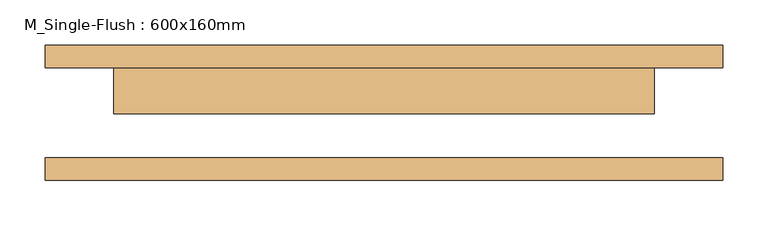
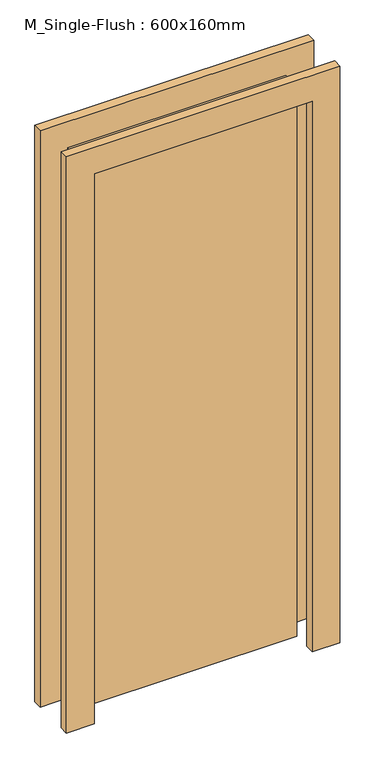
"""IFC4 building model written with IfcOpenShell, lengths in millimetres: door geometry, M_Single-Flush : 600x160mm."""

import ifcopenshell
import ifcopenshell.guid

model = None  # the IFC model being written
_history = None  # IfcOwnerHistory: only IFC2X3 demands one
_inside = {}  # id of a spatial element -> (the spatial element, [elements in it])
_under = {}  # id of a project, library or spatial element -> (it, [spatial elements below it])
_declared = {}  # id of a project -> (the project, [libraries it declares])
_typed = {}  # id of a type object -> (the type object, [elements of that type])
_made_of = {}  # id of a material, layer set ... -> (it, [elements and type objects made of it])


def new_model(schema):
    """Start an empty IFC model of exactly this schema.

    Asked for "IFC4X3", IfcOpenShell would pick the latest addendum, in which some entities
    have other attributes; the version numbers below select the first issue.
    IFC2X3 requires an IfcOwnerHistory on every rooted entity: one is made here for all.
    """
    global model, _history
    if schema == "IFC4X3":
        model = ifcopenshell.file(schema_version=(4, 3, 0, 0))
    else:
        model = ifcopenshell.file(schema=schema)
    _inside.clear()
    _under.clear()
    _declared.clear()
    _typed.clear()
    _made_of.clear()
    _history = None
    if model.schema == "IFC2X3":
        org = make("IfcOrganization", Name="unknown")
        user = make(
            "IfcPersonAndOrganization",
            ThePerson=make("IfcPerson", FamilyName="unknown"),
            TheOrganization=org,
        )
        app = make(
            "IfcApplication",
            ApplicationDeveloper=org,
            Version="unknown",
            ApplicationFullName="unknown",
            ApplicationIdentifier="unknown",
        )
        _history = make(
            "IfcOwnerHistory",
            OwningUser=user,
            OwningApplication=app,
            ChangeAction="ADDED",
            CreationDate=0,
        )
    return model


def make(cls, **values):
    """One entity of the class cls with the attributes given. An attribute that is None is left unset."""
    return model.create_entity(
        cls, **{name: value for name, value in values.items() if value is not None}
    )


def rooted(cls, **values):
    """An entity with a GlobalId (a new one), such as an element, a storey or a relation."""
    return make(cls, GlobalId=ifcopenshell.guid.new(), OwnerHistory=_history, **values)


def si_unit(unit_type, name, prefix=None):
    """IfcSIUnit, for example si_unit("LENGTHUNIT", "METRE", prefix="MILLI")."""
    return make("IfcSIUnit", UnitType=unit_type, Prefix=prefix, Name=name)


def assignment(units):
    """IfcUnitAssignment: the units of a project."""
    return None if units is None else make("IfcUnitAssignment", Units=units)


def point(xyz):
    """IfcCartesianPoint."""
    return None if xyz is None else make("IfcCartesianPoint", Coordinates=xyz)


def direction(xyz):
    """IfcDirection."""
    return None if xyz is None else make("IfcDirection", DirectionRatios=xyz)


def frame(location, z_axis=None, x_axis=None):
    """IfcAxis2Placement3D, a coordinate frame: its origin and axes. An axis left out is left unset."""
    return make(
        "IfcAxis2Placement3D",
        Location=point(location),
        Axis=direction(z_axis),
        RefDirection=direction(x_axis),
    )


def origin():
    """The frame at (0, 0, 0) with its axes left unset."""
    return frame((0.0, 0.0, 0.0))


def origin_with_axes():
    """The frame at (0, 0, 0) with the z axis (0, 0, 1) and the x axis (1, 0, 0) written out."""
    return frame((0.0, 0.0, 0.0), z_axis=(0.0, 0.0, 1.0), x_axis=(1.0, 0.0, 0.0))


def place(relative_to, where):
    """IfcLocalPlacement: puts the frame where relative to a parent placement (None: the world)."""
    return make(
        "IfcLocalPlacement", PlacementRelTo=relative_to, RelativePlacement=where
    )


def context(
    kind, dimensions, precision=None, world=None, true_north=None, identifier=None
):
    """IfcGeometricRepresentationContext, for example the 3D "Model" context."""
    return make(
        "IfcGeometricRepresentationContext",
        ContextIdentifier=identifier,
        ContextType=kind,
        CoordinateSpaceDimension=dimensions,
        Precision=precision,
        WorldCoordinateSystem=world,
        TrueNorth=true_north,
    )


def project(units=None, contexts=None):
    """IfcProject with its units and contexts."""
    return rooted(
        "IfcProject",
        Name="project",
        RepresentationContexts=contexts,
        UnitsInContext=assignment(units),
    )


def spatial(cls, under=None, at=None, **own):
    """A site, building, storey or space (cls), placed at a placement, below another one or the project."""
    s = rooted(cls, ObjectPlacement=at, **own)
    if under is not None:
        _under.setdefault(under.id(), (under, []))[1].append(s)
    return s


def polyline(points):
    """IfcPolyline through the points."""
    return make("IfcPolyline", Points=[point(p) for p in points])


def outline(outer, holes=None, kind="AREA"):
    """IfcArbitraryClosedProfileDef: a profile drawn as a closed curve; with holes, ...WithVoids."""
    if holes is None:
        return make("IfcArbitraryClosedProfileDef", ProfileType=kind, OuterCurve=outer)
    return make(
        "IfcArbitraryProfileDefWithVoids",
        ProfileType=kind,
        OuterCurve=outer,
        InnerCurves=holes,
    )


def extrude(swept, where, along, depth):
    """IfcExtrudedAreaSolid: the profile swept, set in the frame where, extruded along a direction by depth."""
    return make(
        "IfcExtrudedAreaSolid",
        SweptArea=swept,
        Position=where,
        ExtrudedDirection=direction(along),
        Depth=depth,
    )


def shape(context_of_items, identifier, shape_type, items):
    """IfcShapeRepresentation: the items that make up one representation, for example the "Body"."""
    return make(
        "IfcShapeRepresentation",
        ContextOfItems=context_of_items,
        RepresentationIdentifier=identifier,
        RepresentationType=shape_type,
        Items=items,
    )


def source(mapping_origin, context_of_items, identifier, shape_type, items):
    """IfcRepresentationMap: a shape defined once, which mapped items show again and again."""
    return make(
        "IfcRepresentationMap",
        MappingOrigin=mapping_origin,
        MappedRepresentation=shape(context_of_items, identifier, shape_type, items),
    )


def transform(
    local_origin,
    x_axis=None,
    y_axis=None,
    z_axis=None,
    scale=None,
    scale2=None,
    scale3=None,
    uniform=True,
):
    """IfcCartesianTransformationOperator3D, or its non-uniform kind. x_axis, y_axis, z_axis: its Axis1, 2, 3."""
    if uniform:
        return make(
            "IfcCartesianTransformationOperator3D",
            Axis1=direction(x_axis),
            Axis2=direction(y_axis),
            LocalOrigin=point(local_origin),
            Scale=scale,
            Axis3=direction(z_axis),
        )
    return make(
        "IfcCartesianTransformationOperator3DnonUniform",
        Axis1=direction(x_axis),
        Axis2=direction(y_axis),
        LocalOrigin=point(local_origin),
        Scale=scale,
        Axis3=direction(z_axis),
        Scale2=scale2,
        Scale3=scale3,
    )


def mapped(mapping_source, mapping_target):
    """IfcMappedItem: shows the shape of a source again, moved by a transform."""
    return make(
        "IfcMappedItem", MappingSource=mapping_source, MappingTarget=mapping_target
    )


def made_of(thing, what):
    """Note that an element or type object is made of a material, layer set ...; save() writes the relation."""
    if what is not None:
        _made_of.setdefault(what.id(), (what, []))[1].append(thing)
    return thing


def element(
    cls,
    number,
    at=None,
    inside=None,
    cuts=None,
    type_object=None,
    material=None,
    context=None,
    identifier="Body",
    shape_type=None,
    held_by="IfcProductDefinitionShape",
    body=None,
    shapes=None,
    **own,
):
    """One element of the class cls, such as IfcWall. Its Tag is "e" and its number.

    at: its placement. inside: the storey or other place that contains it. cuts: it is an
    opening in that element (IfcRelVoidsElement). A single representation is given by context,
    identifier, shape_type and body (its items); several are given by shapes. held_by: the class
    of the entity that holds the representations. save() writes the other relations.
    """
    e = rooted(cls, Tag="e%d" % number, ObjectPlacement=at, **own)
    if body is not None:
        shapes = [shape(context, identifier, shape_type, body)]
    if shapes is not None:
        e.Representation = make(held_by, Representations=shapes)
    if inside is not None:
        _inside.setdefault(inside.id(), (inside, []))[1].append(e)
    if cuts is not None:
        rooted(
            "IfcRelVoidsElement", RelatingBuildingElement=cuts, RelatedOpeningElement=e
        )
    if type_object is not None:
        _typed.setdefault(type_object.id(), (type_object, []))[1].append(e)
    return made_of(e, material)


def aggregate(whole, parts):
    """IfcRelAggregates: a whole, such as a stair, and the parts it consists of."""
    return rooted("IfcRelAggregates", RelatingObject=whole, RelatedObjects=parts)


def save(model, path):
    """Write the relations noted so far, then the file.

    IfcRelAggregates (storeys below a building ...), IfcRelContainedInSpatialStructure (elements
    in a storey), IfcRelDefinesByType, IfcRelAssociatesMaterial and IfcRelDeclares: one each for
    every whole, place, type object, material and project.
    """
    for whole, parts in _under.values():
        aggregate(whole, parts)
    for where, things in _inside.values():
        rooted(
            "IfcRelContainedInSpatialStructure",
            RelatedElements=things,
            RelatingStructure=where,
        )
    for kind, things in _typed.values():
        rooted("IfcRelDefinesByType", RelatedObjects=things, RelatingType=kind)
    for what, things in _made_of.values():
        rooted("IfcRelAssociatesMaterial", RelatedObjects=things, RelatingMaterial=what)
    for by, libraries in _declared.values():
        rooted("IfcRelDeclares", RelatingContext=by, RelatedDefinitions=libraries)
    model.write(path)


def m_single_flush_600x160mm_9ce3fd48(model_context):
    return source(origin(), model_context, "Body", "SweptSolid", [
        extrude(outline(polyline([(300.0, -1.0), (-300.0, -1.0), (-300.0, 50.0), (300.0, 50.0), (300.0, -1.0)])), origin_with_axes(), (0.0, 0.0, 1.0), 1600.0),
        extrude(outline(polyline([(1676.0, -376.0), (0.0, -376.0), (0.0, -300.0), (1600.0, -300.0), (1600.0, 300.0), (0.0, 300.0), (0.0, 376.0), (1676.0, 376.0), (1676.0, -376.0)])), frame((0.0, 50.0, 0.0), z_axis=(0.0, 1.0, 0.0), x_axis=(0.0, 0.0, 1.0)), (0.0, 0.0, 1.0), 25.0),
        extrude(outline(polyline([(1676.0, 376.0), (1676.0, -376.0), (0.0, -376.0), (0.0, -300.0), (1600.0, -300.0), (1600.0, 300.0), (0.0, 300.0), (0.0, 376.0), (1676.0, 376.0)])), frame((0.0, -75.0, 0.0), z_axis=(0.0, 1.0, 0.0), x_axis=(0.0, 0.0, 1.0)), (0.0, 0.0, 1.0), 25.0),
    ])


if __name__ == "__main__":
    model = new_model("IFC4")
    model_context = context("Model", 3, world=origin())
    ifc_project = project(units=[si_unit("LENGTHUNIT", "METRE", prefix="MILLI")], contexts=[model_context])
    site = spatial("IfcSite", under=ifc_project)
    building = spatial("IfcBuilding", under=site)
    placement = place(None, origin())
    m_single_flush_600x160mm_shape = m_single_flush_600x160mm_9ce3fd48(model_context)
    element("IfcDoor", 1, ObjectType="M_Single-Flush : 600x160mm", at=placement, inside=building, context=model_context, shape_type="MappedRepresentation", body=[
        mapped(m_single_flush_600x160mm_shape, transform((0.0, 0.0, 0.0), x_axis=(1.0, 0.0, 0.0), y_axis=(0.0, 1.0, 0.0), z_axis=(0.0, 0.0, 1.0))),
    ])
    save(model, "model.ifc")
